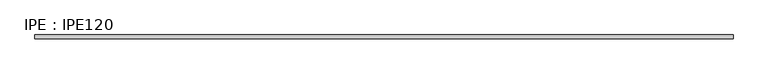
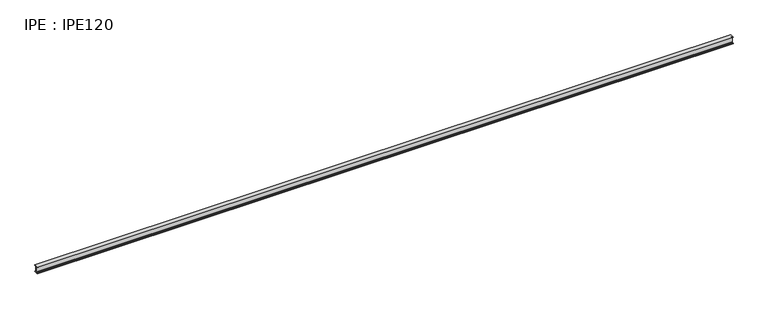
"""IFC4 building model written with IfcOpenShell, lengths in millimetres: beam geometry, IPE : IPE120."""

from ifc_helpers import new_model, si_unit, point, frame, frame_2d, origin, place, context, project, spatial, polyline, circle_curve, trimmed, segment, composite_curve, outline, extrude, source, transform, mapped, element, save


def ipe_ipe120_d9a7a0b2(model_context):
    return source(origin(), model_context, "Body", "SweptSolid", [
        extrude(outline(composite_curve([segment(polyline([(32.0, -53.7), (32.0, -60.0), (-32.0, -60.0), (-32.0, -53.7), (-9.2, -53.7)]), True, "CONTINUOUS"), segment(trimmed(circle_curve(frame_2d((-9.2, -46.7)), 7.0), [point((-9.2, -53.7))], [point((-2.2, -46.7))], True, "CARTESIAN"), True, "CONTINUOUS"), segment(polyline([(-2.2, -46.7), (-2.2, 46.7)]), True, "CONTINUOUS"), segment(trimmed(circle_curve(frame_2d((-9.2, 46.7)), 7.0), [point((-2.2, 46.7))], [point((-9.2, 53.7))], True, "CARTESIAN"), True, "CONTINUOUS"), segment(polyline([(-9.2, 53.7), (-32.0, 53.7), (-32.0, 60.0), (32.0, 60.0), (32.0, 53.7), (9.2, 53.7)]), True, "CONTINUOUS"), segment(trimmed(circle_curve(frame_2d((9.2, 46.7)), 7.0), [point((9.2, 53.7))], [point((2.2, 46.7))], True, "CARTESIAN"), True, "CONTINUOUS"), segment(polyline([(2.2, 46.7), (2.2, -46.7)]), True, "CONTINUOUS"), segment(trimmed(circle_curve(frame_2d((9.2, -46.7)), 7.0), [point((2.2, -46.7))], [point((9.2, -53.7))], True, "CARTESIAN"), True, "CONTINUOUS"), segment(polyline([(9.2, -53.7), (32.0, -53.7)]), True, "CONTINUOUS")], self_intersect=False)), frame((-5994.4, 0.0, 0.0), z_axis=(1.0, 0.0, 0.0), x_axis=(0.0, 1.0, 0.0)), (0.0, 0.0, 1.0), 11981.9),
    ])


if __name__ == "__main__":
    model = new_model("IFC4")
    model_context = context("Model", 3, world=origin())
    ifc_project = project(units=[si_unit("LENGTHUNIT", "METRE", prefix="MILLI")], contexts=[model_context])
    site = spatial("IfcSite", under=ifc_project)
    building = spatial("IfcBuilding", under=site)
    placement = place(None, origin())
    ipe_ipe120_shape = ipe_ipe120_d9a7a0b2(model_context)
    element("IfcBeam", 1, ObjectType="IPE : IPE120", at=placement, inside=building, context=model_context, shape_type="MappedRepresentation", body=[
        mapped(ipe_ipe120_shape, transform((0.0, 0.0, 0.0), x_axis=(1.0, 0.0, 0.0), y_axis=(0.0, 1.0, 0.0), z_axis=(0.0, 0.0, 1.0))),
    ])
    save(model, "model.ifc")
